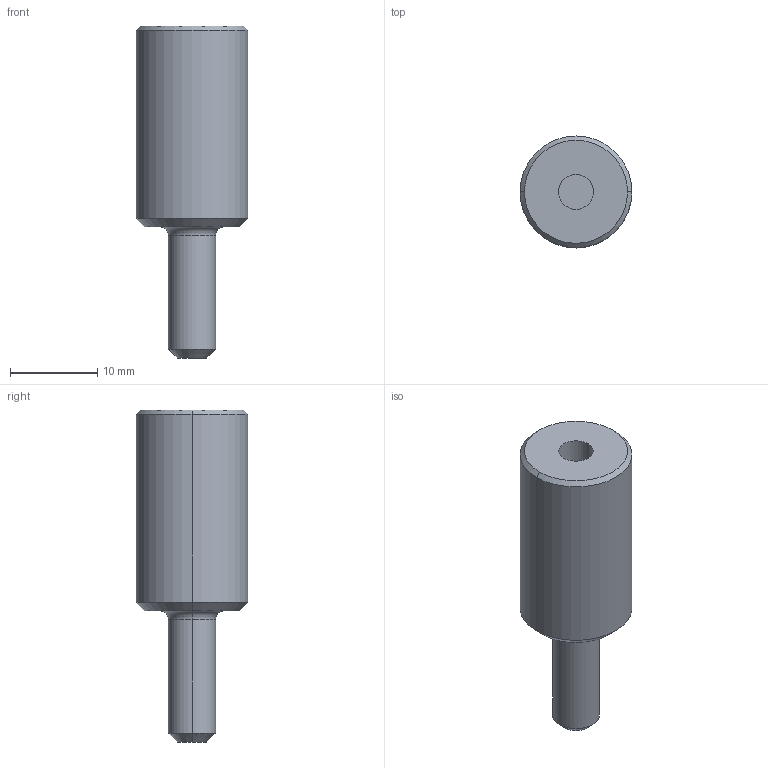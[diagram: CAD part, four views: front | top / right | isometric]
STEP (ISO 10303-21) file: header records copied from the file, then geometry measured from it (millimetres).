
FILE_DESCRIPTION(('CATIA V5 STEP Exchange'),'2;1');
FILE_NAME('E:\够快云库\系统集成开发部\1.部门成员\姚明阳\工装\3D数模\GZ07.07_V2.stp','2020-10-19T01:56:32+00:00',('none'),('none'),'CATIA Version 5 Release 21 GA (IN-10)','CATIA V5 STEP AP214','none');
FILE_SCHEMA(('AUTOMOTIVE_DESIGN { 1 0 10303 214 1 1 1 1 }'));
Length unit declared in the file: millimetre
Products named in the file (1): GZ07.07_V1
Bounding box: 12.8 x 12.8 x 38 mm (x, y, z)
Volume: 3112.4 mm3; surface area: 1545 mm2
Topology: 1 solids, 1 shells, 18 faces, 34 edges, 20 vertices
Faces by surface type: cylinder 6, cone 6, plane 4, torus 2
Entity records: 441 total; most frequent: CARTESIAN_POINT 70, ORIENTED_EDGE 68, DIRECTION 64, AXIS2_PLACEMENT_3D 38, EDGE_CURVE 34, CIRCLE 22, EDGE_LOOP 20, VERTEX_POINT 20
